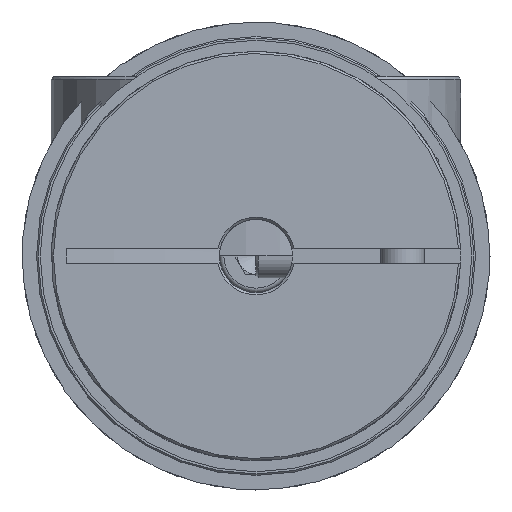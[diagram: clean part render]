
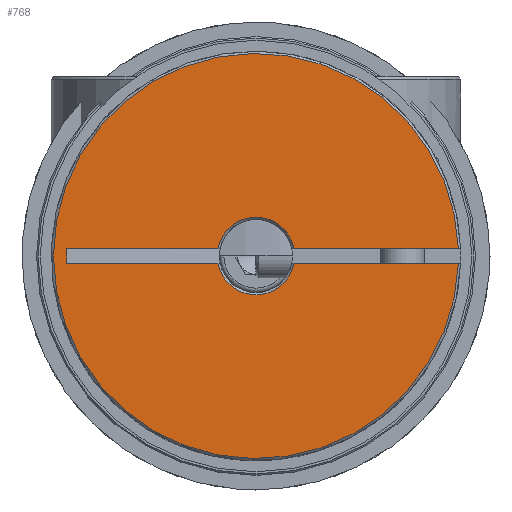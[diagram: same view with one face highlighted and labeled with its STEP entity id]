
A CAD part, left-side view. The second image highlights one B-rep face of the part: STEP entity #768.
In plain terms, the highlighted planar face has unit normal (-1, 0, 0) as drawn and (0, 0, 1) by its records, which use the part's own axes.
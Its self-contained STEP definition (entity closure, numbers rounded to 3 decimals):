
#768 = ADVANCED_FACE( 'NONE', ( #1284 ), #1285, .T. );
#1284 = FACE_OUTER_BOUND( '', #1679, .T. );
#1285 = PLANE( '', #1680 );
#1679 = EDGE_LOOP( '', ( #2483, #2484, #2485, #2486, #2487, #2488, #2489, #2490 ) );
#1680 = AXIS2_PLACEMENT_3D( '', #2491, #2492, #2493 );
#2483 = ORIENTED_EDGE( '', *, *, #2927, .F. );
#2484 = ORIENTED_EDGE( '', *, *, #2880, .T. );
#2485 = ORIENTED_EDGE( '', *, *, #2926, .T. );
#2486 = ORIENTED_EDGE( '', *, *, #2921, .T. );
#2487 = ORIENTED_EDGE( '', *, *, #2923, .T. );
#2488 = ORIENTED_EDGE( '', *, *, #2925, .F. );
#2489 = ORIENTED_EDGE( '', *, *, #2913, .F. );
#2490 = ORIENTED_EDGE( '', *, *, #2916, .T. );
#2491 = CARTESIAN_POINT( '', ( 0., 0., 24.5 ) );
#2492 = DIRECTION( '', ( 0., 0., 1. ) );
#2493 = DIRECTION( '', ( 1., 0., 0. ) );
#2880 = EDGE_CURVE( 'NONE', #3315, #3313, #3316, .T. );
#2913 = EDGE_CURVE( 'NONE', #3374, #3376, #3377, .F. );
#2916 = EDGE_CURVE( 'NONE', #3374, #3379, #3381, .F. );
#2921 = EDGE_CURVE( 'NONE', #3387, #3385, #3388, .F. );
#2923 = EDGE_CURVE( 'NONE', #3385, #3390, #3391, .T. );
#2925 = EDGE_CURVE( 'NONE', #3376, #3390, #3393, .F. );
#2926 = EDGE_CURVE( 'NONE', #3313, #3387, #3394, .T. );
#2927 = EDGE_CURVE( 'NONE', #3315, #3379, #3395, .F. );
#3313 = VERTEX_POINT( 'NONE', #4223 );
#3315 = VERTEX_POINT( 'NONE', #4228 );
#3316 = CIRCLE( '', #4229, 27.7 );
#3374 = VERTEX_POINT( 'NONE', #4447 );
#3376 = VERTEX_POINT( 'NONE', #4452 );
#3377 = LINE( '', #4453, #4454 );
#3379 = VERTEX_POINT( 'NONE', #4456 );
#3381 = CIRCLE( '', #4461, 5.3 );
#3385 = VERTEX_POINT( 'NONE', #4467 );
#3387 = VERTEX_POINT( 'NONE', #4472 );
#3388 = CIRCLE( '', #4473, 5.3 );
#3390 = VERTEX_POINT( 'NONE', #4478 );
#3391 = LINE( '', #4479, #4480 );
#3393 = LINE( '', #4482, #4483 );
#3394 = LINE( '', #4484, #4485 );
#3395 = LINE( '', #4486, #4487 );
#4223 = CARTESIAN_POINT( '', ( 27.682, -1., 24.5 ) );
#4228 = CARTESIAN_POINT( '', ( 27.682, 1., 24.5 ) );
#4229 = AXIS2_PLACEMENT_3D( '', #4798, #4799, #4800 );
#4447 = CARTESIAN_POINT( '', ( -5.205, 1., 24.5 ) );
#4452 = CARTESIAN_POINT( '', ( -25.849, 1., 24.5 ) );
#4453 = CARTESIAN_POINT( '', ( 17., 1., 24.5 ) );
#4454 = VECTOR( '', #4858, 1000. );
#4456 = CARTESIAN_POINT( '', ( 5.205, 1., 24.5 ) );
#4461 = AXIS2_PLACEMENT_3D( '', #4862, #4863, #4864 );
#4467 = CARTESIAN_POINT( '', ( -5.205, -1., 24.5 ) );
#4472 = CARTESIAN_POINT( '', ( 5.205, -1., 24.5 ) );
#4473 = AXIS2_PLACEMENT_3D( '', #4870, #4871, #4872 );
#4478 = CARTESIAN_POINT( '', ( -25.849, -1., 24.5 ) );
#4479 = CARTESIAN_POINT( '', ( 0., -1., 24.5 ) );
#4480 = VECTOR( '', #4873, 1000. );
#4482 = CARTESIAN_POINT( '', ( -25.849, -1., 24.5 ) );
#4483 = VECTOR( '', #4877, 1000. );
#4484 = CARTESIAN_POINT( '', ( 0., -1., 24.5 ) );
#4485 = VECTOR( '', #4878, 1000. );
#4486 = CARTESIAN_POINT( '', ( 17., 1., 24.5 ) );
#4487 = VECTOR( '', #4879, 1000. );
#4798 = CARTESIAN_POINT( '', ( 0., 0., 24.5 ) );
#4799 = DIRECTION( '', ( 0., 0., 1. ) );
#4800 = DIRECTION( '', ( 1., 0., 0. ) );
#4858 = DIRECTION( '', ( 1., 0., 0. ) );
#4862 = CARTESIAN_POINT( '', ( 0., 0., 24.5 ) );
#4863 = DIRECTION( '', ( 0., 0., 1. ) );
#4864 = DIRECTION( '', ( 1., 0., 0. ) );
#4870 = CARTESIAN_POINT( '', ( 0., 0., 24.5 ) );
#4871 = DIRECTION( '', ( 0., 0., 1. ) );
#4872 = DIRECTION( '', ( 1., 0., 0. ) );
#4873 = DIRECTION( '', ( -1., 0., 0. ) );
#4877 = DIRECTION( '', ( 0., 1., 0. ) );
#4878 = DIRECTION( '', ( -1., 0., 0. ) );
#4879 = DIRECTION( '', ( 1., 0., 0. ) );
